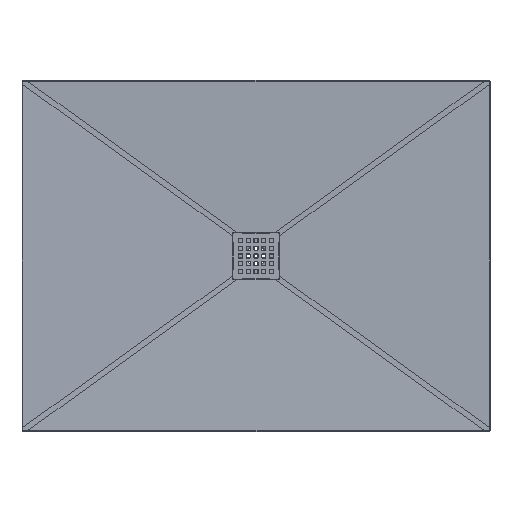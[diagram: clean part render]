
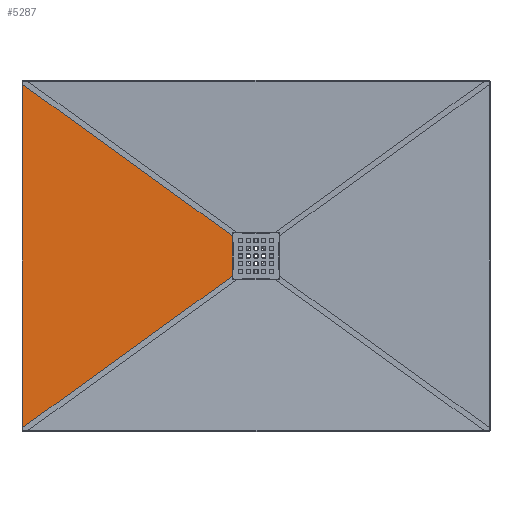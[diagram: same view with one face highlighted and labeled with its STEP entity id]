
A CAD part, top view. The second image highlights one B-rep face of the part: STEP entity #5287.
In plain terms, the highlighted free-form (B-spline) face has degree [1, 1] with [2, 2] control points.
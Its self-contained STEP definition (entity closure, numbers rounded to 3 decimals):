
#38 = FACE_OUTER_BOUND ( 'NONE', #4325, .T. ) ;
#518 = CARTESIAN_POINT ( 'NONE',  ( -76.888, -63.422, -14.531 ) ) ;
#1480 = CARTESIAN_POINT ( 'NONE',  ( -60.972, -29.659, -14.973 ) ) ;
#1566 = CARTESIAN_POINT ( 'NONE',  ( -573.803, 422.305, -0.728 ) ) ;
#1618 = EDGE_CURVE ( 'NONE', #31072, #38118, #22572, .T. ) ;
#1759 = CARTESIAN_POINT ( 'NONE',  ( -134.196, 104.811, -12.939 ) ) ;
#2555 = ORIENTED_EDGE ( 'NONE', *, *, #3639, .F. ) ;
#2561 = CARTESIAN_POINT ( 'NONE',  ( -60.971, 59.514, -14.973 ) ) ;
#3046 = CARTESIAN_POINT ( 'NONE',  ( -177.087, -135.788, -11.748 ) ) ;
#3426 = CARTESIAN_POINT ( 'NONE',  ( -325.416, -242.915, -7.627 ) ) ;
#3639 = EDGE_CURVE ( 'NONE', #36473, #31072, #25694, .T. ) ;
#3804 = CARTESIAN_POINT ( 'NONE',  ( -62.977, -53.376, -14.917 ) ) ;
#4183 = CARTESIAN_POINT ( 'NONE',  ( -60.972, -51.928, -14.973 ) ) ;
#4313 = CARTESIAN_POINT ( 'NONE',  ( -597.944, 439.741, -0.057 ) ) ;
#4325 = EDGE_LOOP ( 'NONE', ( #35118, #2555, #12374, #26366 ) ) ;
#4569 = CARTESIAN_POINT ( 'NONE',  ( -60.972, 4.959, -14.973 ) ) ;
#5037 = CARTESIAN_POINT ( 'NONE',  ( -407.226, 302., -5.355 ) ) ;
#5287 = ADVANCED_FACE ( 'NONE', ( #38 ), #37938, .F. ) ;
#7596 = CARTESIAN_POINT ( 'NONE',  ( -527.207, 388.653, -2.022 ) ) ;
#7802 = CARTESIAN_POINT ( 'NONE',  ( -86.789, 70.573, -14.256 ) ) ;
#8393 = CARTESIAN_POINT ( 'NONE',  ( -154.147, 119.221, -12.385 ) ) ;
#9281 = CARTESIAN_POINT ( 'NONE',  ( -134.196, -104.811, -12.939 ) ) ;
#9655 = CARTESIAN_POINT ( 'NONE',  ( -99.091, -79.458, -13.914 ) ) ;
#10893 = CARTESIAN_POINT ( 'NONE',  ( -597.944, 439.741, -0.057 ) ) ;
#12163 = CARTESIAN_POINT ( 'NONE',  ( -154.147, -119.221, -12.385 ) ) ;
#12374 = ORIENTED_EDGE ( 'NONE', *, *, #19297, .T. ) ;
#12519 = CARTESIAN_POINT ( 'NONE',  ( -60.972, -51.928, -14.973 ) ) ;
#12546 = CARTESIAN_POINT ( 'NONE',  ( -597.944, -439.741, -0.057 ) ) ;
#12932 = CARTESIAN_POINT ( 'NONE',  ( -60.972, -51.928, -14.973 ) ) ;
#13408 = CARTESIAN_POINT ( 'NONE',  ( -62.977, 53.376, -14.917 ) ) ;
#13796 = CARTESIAN_POINT ( 'NONE',  ( -68.282, 57.207, -14.77 ) ) ;
#14179 = CARTESIAN_POINT ( 'NONE',  ( -363.277, 270.259, -6.576 ) ) ;
#15268 = CARTESIAN_POINT ( 'NONE',  ( -114.093, -90.293, -13.497 ) ) ;
#16511 = CARTESIAN_POINT ( 'NONE',  ( -114.093, 90.293, -13.497 ) ) ;
#16562 = B_SPLINE_CURVE_WITH_KNOTS ( 'NONE', 3,
 ( #12546, #29595, #24330, #21054, #33226, #29968, #3426, #36150, #24137, #32468, #32836, #3046, #12163, #9281, #15268, #9655, #27061, #518, #21255, #3804, #12932 ),
 .UNSPECIFIED., .F., .F.,
 ( 4, 1, 1, 1, 1, 1, 1, 1, 1, 1, 1, 1, 1, 1, 1, 1, 1, 1, 4 ),
 ( 2.536, 91.898, 175.011, 255.591, 282.957, 337.69, 395.737, 429.009, 465.054, 492.781, 526.053, 546.595, 577.692, 599.905, 621.006, 633.223, 645.44, 657.657, 665.077 ),
 .UNSPECIFIED. ) ;
#16698 = CARTESIAN_POINT ( 'NONE',  ( -225.333, 170.633, -10.407 ) ) ;
#17688 = CARTESIAN_POINT ( 'NONE',  ( -60.971, -59.514, -14.973 ) ) ;
#18177 = CARTESIAN_POINT ( 'NONE',  ( -60.972, 39.578, -14.973 ) ) ;
#18683 = CARTESIAN_POINT ( 'NONE',  ( -597.944, -347.42, -0.057 ) ) ;
#19297 = EDGE_CURVE ( 'NONE', #36473, #24045, #16562, .T. ) ;
#21054 = CARTESIAN_POINT ( 'NONE',  ( -458.843, -339.278, -3.921 ) ) ;
#21255 = CARTESIAN_POINT ( 'NONE',  ( -68.282, -57.207, -14.77 ) ) ;
#21783 = CARTESIAN_POINT ( 'NONE',  ( -597.944, -439.741, -0.057 ) ) ;
#22495 = CARTESIAN_POINT ( 'NONE',  ( -99.091, 79.458, -13.914 ) ) ;
#22572 = B_SPLINE_CURVE_WITH_KNOTS ( 'NONE', 3,
 ( #10893, #1566, #7596, #34275, #5037, #14179, #25959, #37796, #34850, #16698, #37208, #23062, #8393, #1759, #16511, #22495, #7802, #25569, #13796, #13408, #25188 ),
 .UNSPECIFIED., .F., .F.,
 ( 4, 1, 1, 1, 1, 1, 1, 1, 1, 1, 1, 1, 1, 1, 1, 1, 1, 1, 4 ),
 ( 2.536, 91.898, 175.011, 255.591, 282.957, 337.69, 395.737, 429.009, 465.054, 492.781, 526.053, 546.595, 577.692, 599.905, 621.006, 633.223, 645.44, 657.657, 665.077 ),
 .UNSPECIFIED. ) ;
#23062 = CARTESIAN_POINT ( 'NONE',  ( -177.087, 135.788, -11.748 ) ) ;
#23966 = CARTESIAN_POINT ( 'NONE',  ( -60.972, 51.928, -14.973 ) ) ;
#24045 = VERTEX_POINT ( 'NONE', #12519 ) ;
#24137 = CARTESIAN_POINT ( 'NONE',  ( -251.551, -189.567, -9.679 ) ) ;
#24330 = CARTESIAN_POINT ( 'NONE',  ( -527.207, -388.653, -2.022 ) ) ;
#25188 = CARTESIAN_POINT ( 'NONE',  ( -60.972, 51.928, -14.973 ) ) ;
#25569 = CARTESIAN_POINT ( 'NONE',  ( -76.888, 63.422, -14.531 ) ) ;
#25694 = B_SPLINE_CURVE_WITH_KNOTS ( 'NONE', 3,
 ( #21783, #18683, #30481, #30662, #4313 ),
 .UNSPECIFIED., .F., .F.,
 ( 4, 1, 4 ),
 ( 0., 276.963, 879.482 ),
 .UNSPECIFIED. ) ;
#25959 = CARTESIAN_POINT ( 'NONE',  ( -325.416, 242.915, -7.627 ) ) ;
#26366 = ORIENTED_EDGE ( 'NONE', *, *, #35997, .F. ) ;
#26576 = CARTESIAN_POINT ( 'NONE',  ( -597.945, 439.742, -0.057 ) ) ;
#27061 = CARTESIAN_POINT ( 'NONE',  ( -86.789, -70.573, -14.256 ) ) ;
#27653 = CARTESIAN_POINT ( 'NONE',  ( -597.944, -439.741, -0.057 ) ) ;
#28564 = B_SPLINE_CURVE_WITH_KNOTS ( 'NONE', 3,
 ( #23966, #18177, #4569, #1480, #4183 ),
 .UNSPECIFIED., .F., .F.,
 ( 4, 1, 4 ),
 ( 0., 37.05, 103.855 ),
 .UNSPECIFIED. ) ;
#29595 = CARTESIAN_POINT ( 'NONE',  ( -573.803, -422.305, -0.728 ) ) ;
#29968 = CARTESIAN_POINT ( 'NONE',  ( -363.277, -270.259, -6.576 ) ) ;
#30481 = CARTESIAN_POINT ( 'NONE',  ( -597.944, -54.259, -0.057 ) ) ;
#30662 = CARTESIAN_POINT ( 'NONE',  ( -597.944, 238.901, -0.057 ) ) ;
#31072 = VERTEX_POINT ( 'NONE', #33466 ) ;
#32468 = CARTESIAN_POINT ( 'NONE',  ( -225.333, -170.633, -10.407 ) ) ;
#32836 = CARTESIAN_POINT ( 'NONE',  ( -199.116, -151.698, -11.136 ) ) ;
#33226 = CARTESIAN_POINT ( 'NONE',  ( -407.226, -302., -5.355 ) ) ;
#33466 = CARTESIAN_POINT ( 'NONE',  ( -597.944, 439.741, -0.057 ) ) ;
#34275 = CARTESIAN_POINT ( 'NONE',  ( -458.843, 339.278, -3.921 ) ) ;
#34850 = CARTESIAN_POINT ( 'NONE',  ( -251.551, 189.567, -9.679 ) ) ;
#35118 = ORIENTED_EDGE ( 'NONE', *, *, #1618, .F. ) ;
#35462 = CARTESIAN_POINT ( 'NONE',  ( -597.945, -439.742, -0.057 ) ) ;
#35997 = EDGE_CURVE ( 'NONE', #38118, #24045, #28564, .T. ) ;
#36150 = CARTESIAN_POINT ( 'NONE',  ( -285.959, -214.418, -8.723 ) ) ;
#36473 = VERTEX_POINT ( 'NONE', #27653 ) ;
#37206 = CARTESIAN_POINT ( 'NONE',  ( -60.972, 51.928, -14.973 ) ) ;
#37208 = CARTESIAN_POINT ( 'NONE',  ( -199.116, 151.698, -11.136 ) ) ;
#37796 = CARTESIAN_POINT ( 'NONE',  ( -285.959, 214.418, -8.723 ) ) ;
#37938 = B_SPLINE_SURFACE_WITH_KNOTS ( 'NONE', 1, 1, ( 
 ( #35462, #17688 ),
 ( #26576, #2561 ) ),
 .UNSPECIFIED., .F., .F., .F.,
 ( 2, 2 ),
 ( 2, 2 ),
 ( 0., 882.393 ),
 ( 0., 1. ),
 .UNSPECIFIED. ) ;
#38118 = VERTEX_POINT ( 'NONE', #37206 ) ;
